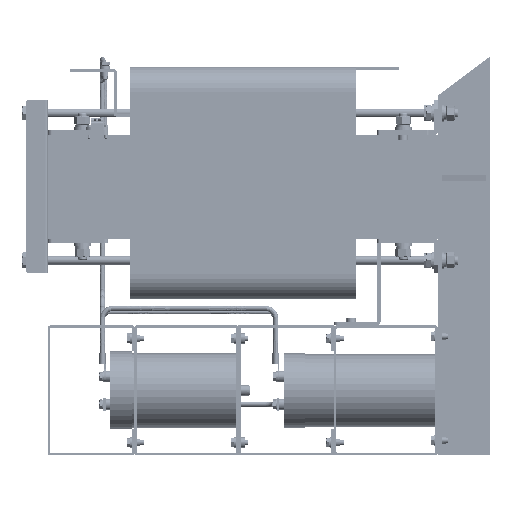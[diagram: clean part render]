
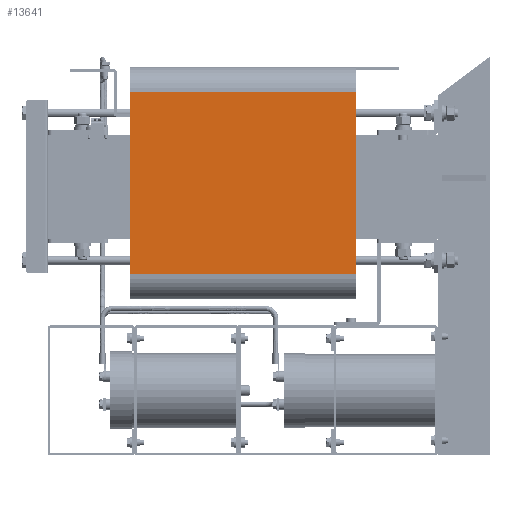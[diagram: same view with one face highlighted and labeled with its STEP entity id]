
A CAD part, left-side view. The second image highlights one B-rep face of the part: STEP entity #13641.
In plain terms, the highlighted planar face has unit normal (-1, 0, 0).
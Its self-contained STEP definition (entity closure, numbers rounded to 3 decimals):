
#13641=ADVANCED_FACE('',(#24989),#24991,.F.);
#24989=FACE_BOUND('',#24990,.T.);
#24990=EDGE_LOOP('',(#42777,#42778,#42779,#42780));
#24991=PLANE('',#24992);
#24992=AXIS2_PLACEMENT_3D('',#24993,#24994,#24995);
#24993=CARTESIAN_POINT('',(-78.5,130.,130.));
#24994=DIRECTION('',(1.,0.,0.));
#24995=DIRECTION('',(0.,1.,0.));
#42777=ORIENTED_EDGE('',*,*,#48187,.T.);
#42778=ORIENTED_EDGE('',*,*,#48203,.T.);
#42779=ORIENTED_EDGE('',*,*,#48173,.F.);
#42780=ORIENTED_EDGE('',*,*,#48204,.T.);
#48173=EDGE_CURVE('',#51987,#51989,#51990,.T.);
#48187=EDGE_CURVE('',#52017,#52015,#52018,.T.);
#48203=EDGE_CURVE('',#52015,#51989,#52044,.T.);
#48204=EDGE_CURVE('',#51987,#52017,#52045,.T.);
#51987=VERTEX_POINT('',#59501);
#51989=VERTEX_POINT('',#59506);
#51990=LINE('',#59507,#59508);
#52015=VERTEX_POINT('',#59564);
#52017=VERTEX_POINT('',#59569);
#52018=LINE('',#59570,#59571);
#52044=LINE('',#59634,#59635);
#52045=LINE('',#59637,#59638);
#59501=CARTESIAN_POINT('',(-78.5,101.,130.));
#59506=CARTESIAN_POINT('',(-78.5,-109.,130.));
#59507=CARTESIAN_POINT('',(-78.5,101.,130.));
#59508=VECTOR('',#59509,1.);
#59509=DIRECTION('',(0.,-1.,0.));
#59564=CARTESIAN_POINT('',(-78.5,-109.,-130.));
#59569=CARTESIAN_POINT('',(-78.5,101.,-130.));
#59570=CARTESIAN_POINT('',(-78.5,101.,-130.));
#59571=VECTOR('',#59572,1.);
#59572=DIRECTION('',(0.,-1.,0.));
#59634=CARTESIAN_POINT('',(-78.5,-109.,-130.));
#59635=VECTOR('',#59636,1.);
#59636=DIRECTION('',(0.,0.,1.));
#59637=CARTESIAN_POINT('',(-78.5,101.,130.));
#59638=VECTOR('',#59639,1.);
#59639=DIRECTION('',(0.,0.,-1.));
